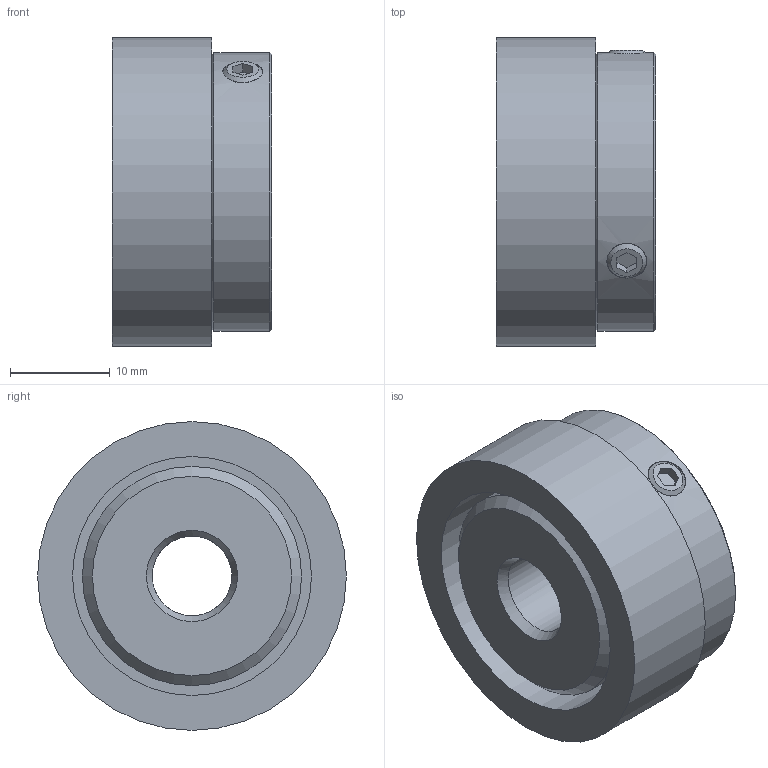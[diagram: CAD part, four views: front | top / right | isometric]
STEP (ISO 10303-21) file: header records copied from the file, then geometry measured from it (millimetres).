
FILE_DESCRIPTION (( 'STEP AP203' ), '1' );
FILE_NAME ('8.RI20.031.0800.111.STEP', '2013-07-30T11:05:17', ( 'Hodot' ), ( '' ), 'SwSTEP 2.0', 'SolidWorks 2012', '' );
FILE_SCHEMA (( 'CONFIG_CONTROL_DESIGN' ));
Length unit declared in the file: millimetre
Products named in the file (1): 8.RI20.031.0800.111
Bounding box: 16 x 31 x 31 mm (x, y, z)
Volume: 9382 mm3; surface area: 5426.1 mm2
Topology: 4 solids, 4 shells, 49 faces, 107 edges, 70 vertices
Faces by surface type: plane 26, cylinder 15, cone 8
Full cylindrical faces by diameter (mm): 2.5 x2, 4 x4, 8 x1, 22 x1, 24 x1, 28 x1, 31 x1
Entity records: 1461 total; most frequent: CARTESIAN_POINT 416, DIRECTION 200, ORIENTED_EDGE 160, AXIS2_PLACEMENT_3D 82, EDGE_CURVE 80, EDGE_LOOP 80, VERTEX_POINT 62, FACE_OUTER_BOUND 60
